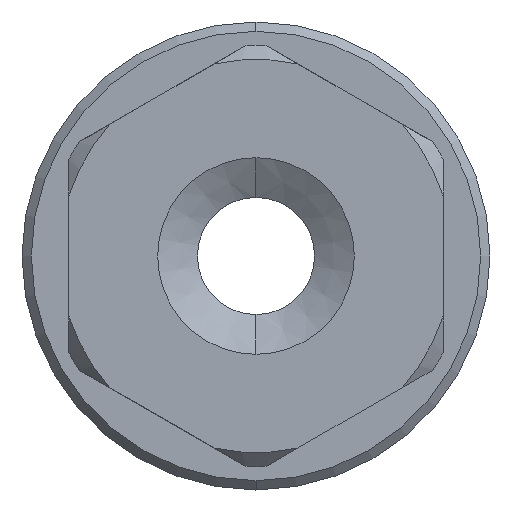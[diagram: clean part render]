
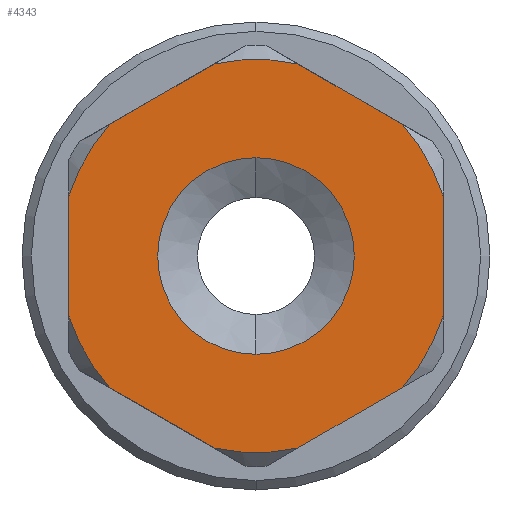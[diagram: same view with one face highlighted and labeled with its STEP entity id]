
A CAD part, front view. The second image highlights one B-rep face of the part: STEP entity #4343.
In plain terms, the highlighted planar face has unit normal (0, -1, 0).
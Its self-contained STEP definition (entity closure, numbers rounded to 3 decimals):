
#42 = ORIENTED_EDGE ( 'NONE', *, *, #7349, .F. ) ;
#84 = DIRECTION ( 'NONE',  ( 0., 1., 0. ) ) ;
#92 = VERTEX_POINT ( 'NONE', #6595 ) ;
#115 = EDGE_CURVE ( 'NONE', #6192, #3273, #2598, .T. ) ;
#193 = CARTESIAN_POINT ( 'NONE',  ( -5.706, -25.676, 18.9 ) ) ;
#206 = LINE ( 'NONE', #5239, #1602 ) ;
#217 = ORIENTED_EDGE ( 'NONE', *, *, #3526, .F. ) ;
#310 = EDGE_CURVE ( 'NONE', #2713, #4650, #2502, .T. ) ;
#312 = ORIENTED_EDGE ( 'NONE', *, *, #2611, .F. ) ;
#505 = ORIENTED_EDGE ( 'NONE', *, *, #310, .F. ) ;
#546 = CARTESIAN_POINT ( 'NONE',  ( -5.706, -25.676, 23.1 ) ) ;
#610 = VERTEX_POINT ( 'NONE', #546 ) ;
#674 = DIRECTION ( 'NONE',  ( 0., 0., -1. ) ) ;
#695 = ORIENTED_EDGE ( 'NONE', *, *, #6767, .F. ) ;
#796 = DIRECTION ( 'NONE',  ( 0., 0., 1. ) ) ;
#874 = DIRECTION ( 'NONE',  ( 0., -1., 0. ) ) ;
#919 = LINE ( 'NONE', #2551, #6798 ) ;
#936 = CARTESIAN_POINT ( 'NONE',  ( -6.597, -25.676, 25.104 ) ) ;
#1036 = VECTOR ( 'NONE', #796, 1000. ) ;
#1117 = CARTESIAN_POINT ( 'NONE',  ( -9.706, -25.676, 22.281 ) ) ;
#1138 = CARTESIAN_POINT ( 'NONE',  ( -5.706, -25.676, 21. ) ) ;
#1210 = EDGE_CURVE ( 'NONE', #610, #4737, #2848, .T. ) ;
#1348 = LINE ( 'NONE', #7009, #5903 ) ;
#1463 = CIRCLE ( 'NONE', #2695, 4.2 ) ;
#1464 = EDGE_LOOP ( 'NONE', ( #505, #2041, #3581, #5100, #695, #6764, #2422, #42, #217, #3684, #5188, #4396 ) ) ;
#1550 = AXIS2_PLACEMENT_3D ( 'NONE', #3570, #84, #4154 ) ;
#1602 = VECTOR ( 'NONE', #1827, 1000. ) ;
#1722 = DIRECTION ( 'NONE',  ( 1., 0., 0. ) ) ;
#1827 = DIRECTION ( 'NONE',  ( 0.866, 0., 0.5 ) ) ;
#1844 = VERTEX_POINT ( 'NONE', #936 ) ;
#1986 = DIRECTION ( 'NONE',  ( 0.866, 0., -0.5 ) ) ;
#2041 = ORIENTED_EDGE ( 'NONE', *, *, #3814, .F. ) ;
#2051 = DIRECTION ( 'NONE',  ( 0., 0., -1. ) ) ;
#2055 = DIRECTION ( 'NONE',  ( 1., 0., 0. ) ) ;
#2272 = EDGE_CURVE ( 'NONE', #4650, #1844, #206, .T. ) ;
#2317 = DIRECTION ( 'NONE',  ( 0., 1., 0. ) ) ;
#2391 = CIRCLE ( 'NONE', #4911, 4.2 ) ;
#2422 = ORIENTED_EDGE ( 'NONE', *, *, #2815, .F. ) ;
#2502 = CIRCLE ( 'NONE', #3957, 4.2 ) ;
#2519 = DIRECTION ( 'NONE',  ( 0., 1., 0. ) ) ;
#2521 = AXIS2_PLACEMENT_3D ( 'NONE', #4324, #874, #4887 ) ;
#2551 = CARTESIAN_POINT ( 'NONE',  ( -1.92, -25.676, 23.433 ) ) ;
#2598 = LINE ( 'NONE', #5723, #4132 ) ;
#2611 = EDGE_CURVE ( 'NONE', #4737, #610, #4375, .T. ) ;
#2695 = AXIS2_PLACEMENT_3D ( 'NONE', #3020, #6963, #3583 ) ;
#2713 = VERTEX_POINT ( 'NONE', #1117 ) ;
#2815 = EDGE_CURVE ( 'NONE', #7125, #6192, #2391, .T. ) ;
#2848 = CIRCLE ( 'NONE', #3359, 2.1 ) ;
#2875 = VERTEX_POINT ( 'NONE', #6295 ) ;
#3020 = CARTESIAN_POINT ( 'NONE',  ( -5.706, -25.676, 21. ) ) ;
#3186 = CARTESIAN_POINT ( 'NONE',  ( -5.706, -25.676, 21. ) ) ;
#3202 = CARTESIAN_POINT ( 'NONE',  ( -5.706, -25.676, 21. ) ) ;
#3273 = VERTEX_POINT ( 'NONE', #7093 ) ;
#3359 = AXIS2_PLACEMENT_3D ( 'NONE', #3186, #4940, #674 ) ;
#3419 = ORIENTED_EDGE ( 'NONE', *, *, #1210, .F. ) ;
#3443 = VERTEX_POINT ( 'NONE', #6231 ) ;
#3502 = VERTEX_POINT ( 'NONE', #4563 ) ;
#3526 = EDGE_CURVE ( 'NONE', #3443, #3502, #4891, .T. ) ;
#3570 = CARTESIAN_POINT ( 'NONE',  ( -5.706, -25.676, 21. ) ) ;
#3581 = ORIENTED_EDGE ( 'NONE', *, *, #3742, .F. ) ;
#3583 = DIRECTION ( 'NONE',  ( 1., 0., 0. ) ) ;
#3644 = PLANE ( 'NONE',  #5202 ) ;
#3684 = ORIENTED_EDGE ( 'NONE', *, *, #4710, .F. ) ;
#3742 = EDGE_CURVE ( 'NONE', #2875, #5972, #4365, .T. ) ;
#3760 = CARTESIAN_POINT ( 'NONE',  ( -9.706, -25.676, 19.719 ) ) ;
#3773 = DIRECTION ( 'NONE',  ( 1., 0., 0. ) ) ;
#3814 = EDGE_CURVE ( 'NONE', #5972, #2713, #6900, .T. ) ;
#3930 = AXIS2_PLACEMENT_3D ( 'NONE', #3202, #7142, #3773 ) ;
#3957 = AXIS2_PLACEMENT_3D ( 'NONE', #4450, #4541, #2055 ) ;
#4067 = EDGE_LOOP ( 'NONE', ( #312, #3419 ) ) ;
#4132 = VECTOR ( 'NONE', #7347, 1000. ) ;
#4154 = DIRECTION ( 'NONE',  ( 1., 0., 0. ) ) ;
#4324 = CARTESIAN_POINT ( 'NONE',  ( -5.706, -25.676, 21. ) ) ;
#4343 = ADVANCED_FACE ( 'NONE', ( #5333, #6647 ), #3644, .F. ) ;
#4354 = CIRCLE ( 'NONE', #3930, 4.2 ) ;
#4365 = CIRCLE ( 'NONE', #1550, 4.2 ) ;
#4375 = CIRCLE ( 'NONE', #2521, 2.1 ) ;
#4396 = ORIENTED_EDGE ( 'NONE', *, *, #2272, .F. ) ;
#4434 = EDGE_CURVE ( 'NONE', #1844, #92, #4354, .T. ) ;
#4450 = CARTESIAN_POINT ( 'NONE',  ( -5.706, -25.676, 21. ) ) ;
#4541 = DIRECTION ( 'NONE',  ( 0., 1., 0. ) ) ;
#4563 = CARTESIAN_POINT ( 'NONE',  ( -1.706, -25.676, 22.281 ) ) ;
#4638 = CARTESIAN_POINT ( 'NONE',  ( -1.706, -25.676, 19.719 ) ) ;
#4650 = VERTEX_POINT ( 'NONE', #6499 ) ;
#4653 = CARTESIAN_POINT ( 'NONE',  ( -6.597, -25.676, 16.896 ) ) ;
#4710 = EDGE_CURVE ( 'NONE', #92, #3443, #919, .T. ) ;
#4737 = VERTEX_POINT ( 'NONE', #193 ) ;
#4803 = CARTESIAN_POINT ( 'NONE',  ( -9.706, -25.676, 21. ) ) ;
#4887 = DIRECTION ( 'NONE',  ( 0., 0., -1. ) ) ;
#4891 = CIRCLE ( 'NONE', #5901, 4.2 ) ;
#4911 = AXIS2_PLACEMENT_3D ( 'NONE', #1138, #5141, #1722 ) ;
#4940 = DIRECTION ( 'NONE',  ( 0., -1., 0. ) ) ;
#5100 = ORIENTED_EDGE ( 'NONE', *, *, #5783, .F. ) ;
#5141 = DIRECTION ( 'NONE',  ( 0., 1., 0. ) ) ;
#5155 = VERTEX_POINT ( 'NONE', #4653 ) ;
#5188 = ORIENTED_EDGE ( 'NONE', *, *, #4434, .F. ) ;
#5202 = AXIS2_PLACEMENT_3D ( 'NONE', #5924, #2519, #6493 ) ;
#5239 = CARTESIAN_POINT ( 'NONE',  ( -5.92, -25.676, 25.495 ) ) ;
#5333 = FACE_BOUND ( 'NONE', #4067, .T. ) ;
#5723 = CARTESIAN_POINT ( 'NONE',  ( -5.491, -25.676, 16.505 ) ) ;
#5742 = CARTESIAN_POINT ( 'NONE',  ( -5.706, -25.676, 21. ) ) ;
#5783 = EDGE_CURVE ( 'NONE', #5155, #2875, #1348, .T. ) ;
#5901 = AXIS2_PLACEMENT_3D ( 'NONE', #5742, #2317, #6296 ) ;
#5903 = VECTOR ( 'NONE', #6483, 1000. ) ;
#5924 = CARTESIAN_POINT ( 'NONE',  ( -9.706, -25.676, 25.25 ) ) ;
#5972 = VERTEX_POINT ( 'NONE', #3760 ) ;
#6049 = CARTESIAN_POINT ( 'NONE',  ( -1.706, -25.676, 21. ) ) ;
#6192 = VERTEX_POINT ( 'NONE', #6948 ) ;
#6231 = CARTESIAN_POINT ( 'NONE',  ( -2.597, -25.676, 23.824 ) ) ;
#6295 = CARTESIAN_POINT ( 'NONE',  ( -8.815, -25.676, 18.176 ) ) ;
#6296 = DIRECTION ( 'NONE',  ( 1., 0., 0. ) ) ;
#6483 = DIRECTION ( 'NONE',  ( -0.866, 0., 0.5 ) ) ;
#6493 = DIRECTION ( 'NONE',  ( 1., 0., 0. ) ) ;
#6499 = CARTESIAN_POINT ( 'NONE',  ( -8.815, -25.676, 23.824 ) ) ;
#6595 = CARTESIAN_POINT ( 'NONE',  ( -4.815, -25.676, 25.104 ) ) ;
#6647 = FACE_OUTER_BOUND ( 'NONE', #1464, .T. ) ;
#6764 = ORIENTED_EDGE ( 'NONE', *, *, #115, .F. ) ;
#6767 = EDGE_CURVE ( 'NONE', #3273, #5155, #1463, .T. ) ;
#6798 = VECTOR ( 'NONE', #1986, 1000. ) ;
#6873 = VECTOR ( 'NONE', #2051, 1000. ) ;
#6900 = LINE ( 'NONE', #4803, #1036 ) ;
#6948 = CARTESIAN_POINT ( 'NONE',  ( -2.597, -25.676, 18.176 ) ) ;
#6963 = DIRECTION ( 'NONE',  ( 0., 1., 0. ) ) ;
#7009 = CARTESIAN_POINT ( 'NONE',  ( -9.491, -25.676, 18.567 ) ) ;
#7046 = LINE ( 'NONE', #6049, #6873 ) ;
#7093 = CARTESIAN_POINT ( 'NONE',  ( -4.815, -25.676, 16.896 ) ) ;
#7125 = VERTEX_POINT ( 'NONE', #4638 ) ;
#7142 = DIRECTION ( 'NONE',  ( 0., 1., 0. ) ) ;
#7347 = DIRECTION ( 'NONE',  ( -0.866, 0., -0.5 ) ) ;
#7349 = EDGE_CURVE ( 'NONE', #3502, #7125, #7046, .T. ) ;
